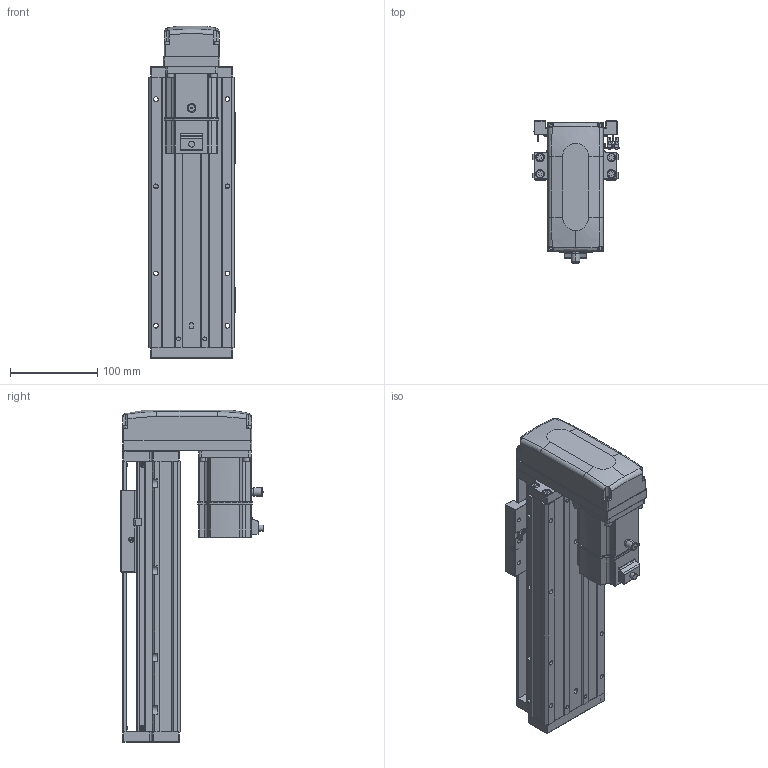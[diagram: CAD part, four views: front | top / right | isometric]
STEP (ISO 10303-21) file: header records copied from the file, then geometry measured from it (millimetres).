
FILE_DESCRIPTION (( 'STEP AP203' ), '1' );
FILE_NAME ('KTHA100-150-BM-M20-C4L.step', '2022-04-26T01:52:12', ( '微软用户' ), ( '微软中国' ), 'SwSTEP 2.0', 'SolidWorks 2020', '' );
FILE_SCHEMA (( 'CONFIG_CONTROL_DESIGN' ));
Length unit declared in the file: millimetre
Products named in the file (17): GBT 70.1-M3℅6; KTHA100-150-BM-M20-C4L; KTHA100-005; GBT70.1 M5℅16; GB¨uT 70.2-M3¡Á5_M3¡Á6; CTHA60-016; EE_SX911P_R; GBT 70.3-M3℅6; CTHA60-017; _X2_4E0983F1_X0_200W_1; KTHA100-001_310; CTHA60-021; CTHA86-015-1_CTHA86-015-2; KTHA100-002; GBT77-2000 M3×3; CTHA86-033; KTHA100-004
Assembly tree (57 placements, depth 2):
  KTHA100-150-BM-M20-C4L
    KTHA100-001_310
    KTHA100-002
    KTHA100-004
    KTHA100-005
    GB¨uT 70.2-M3¡Á5_M3¡Á6  x6
    EE_SX911P_R  x3
    CTHA60-017  x3
    CTHA60-021  x2
    GBT77-2000 M3×3  x6
    GBT 70.1-M3℅6  x10
    GBT70.1 M5℅16  x14
    CTHA60-016  x2
    GBT 70.3-M3℅6  x4
    _X2_4E0983F1_X0_200W_1
    CTHA86-015-1_CTHA86-015-2
    CTHA86-033
Bounding box: 98.82 x 163.2 x 381 mm (x, y, z)
Volume: 2090130.1 mm3; surface area: 352155.1 mm2
Topology: 60 solids, 60 shells, 2357 faces, 5609 edges, 3472 vertices
Faces by surface type: plane 1196, cylinder 653, cone 301, torus 116, bspline 75, sphere 16
Entity records: 39364 total; most frequent: CARTESIAN_POINT 8000, DIRECTION 6052, ORIENTED_EDGE 5830, EDGE_CURVE 2915, AXIS2_PLACEMENT_3D 2132, VERTEX_POINT 1832, VECTOR 1788, LINE 1788
